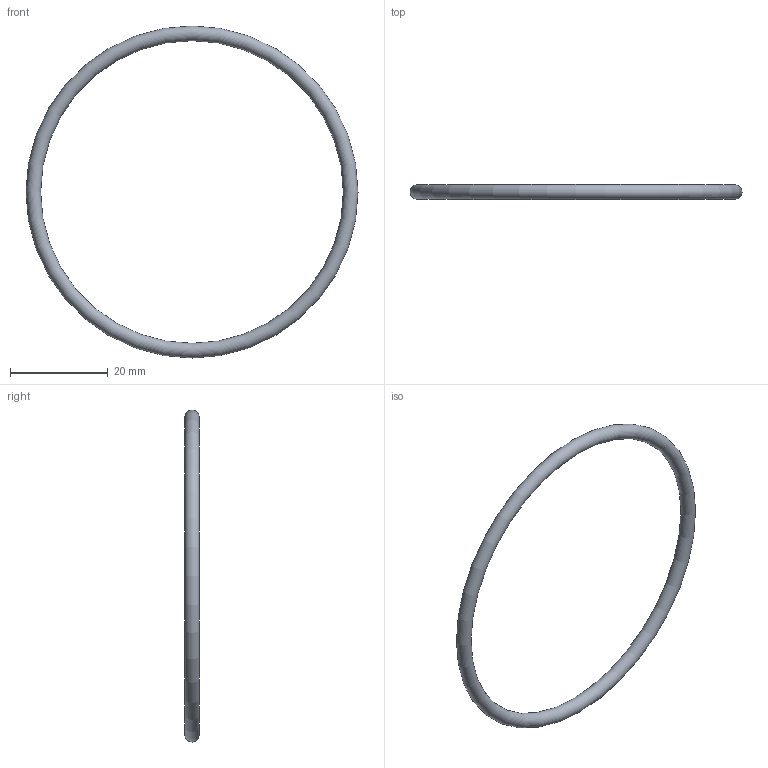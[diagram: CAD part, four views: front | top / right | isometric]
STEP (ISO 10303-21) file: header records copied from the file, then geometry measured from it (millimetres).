
FILE_DESCRIPTION( ( 'STEP AP203' ), '1' );
FILE_NAME( 'C:/Temp/Ganter_Step_05_03_2020/data/3_5/or638/O-Ring OR638-62.00-3.00-70.stp', '2020-03-12T13:44:31', ( 'License CC BY-ND 4.0' ), ( 'CADENAS' ), ' ', 'PARTsolutions', ' ' );
FILE_SCHEMA( ( 'CONFIG_CONTROL_DESIGN' ) );
Length unit declared in the file: millimetre
Products named in the file (1): _O-Ring OR638-62.00-3.00-70
Bounding box: 68 x 3 x 68 mm (x, y, z)
Volume: 1443.4 mm3; surface area: 1924.6 mm2
Topology: 1 solids, 1 shells, 1 faces, 2 edges, 1 vertices
Faces by surface type: torus 1
Entity records: 62 total; most frequent: CC_DESIGN_PERSON_AND_ORGANIZATION_ASSIGNMENT 5, PERSON_AND_ORGANIZATION_ROLE 4, DIRECTION 4, CARTESIAN_POINT 3, DATE_TIME_ROLE 2, CC_DESIGN_DATE_AND_TIME_ASSIGNMENT 2, AXIS2_PLACEMENT_3D 2, DIMENSIONAL_EXPONENTS 2
